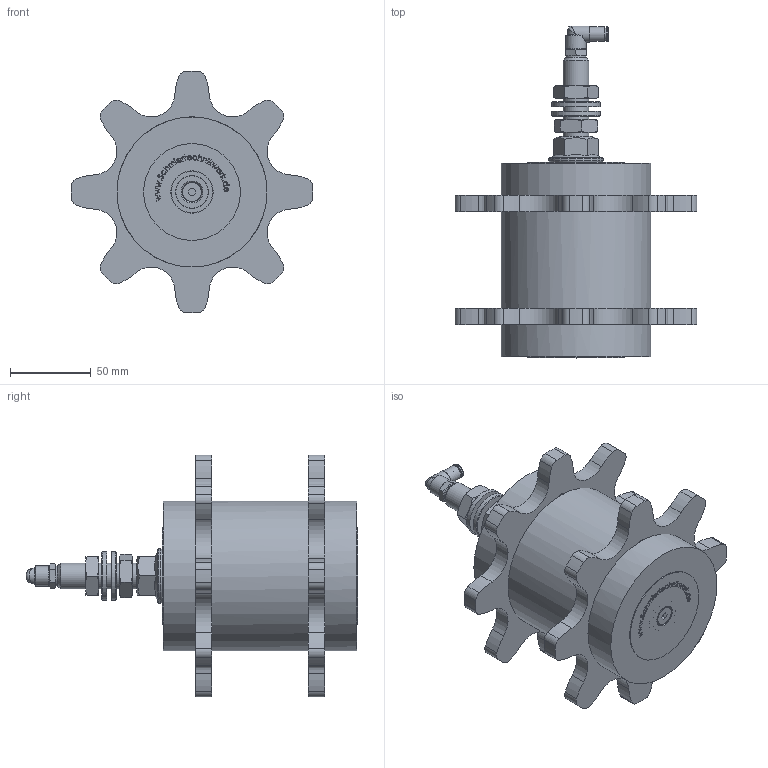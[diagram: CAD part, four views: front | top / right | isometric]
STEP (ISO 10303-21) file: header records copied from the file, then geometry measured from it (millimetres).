
FILE_DESCRIPTION (( 'STEP AP214' ), '1' );
FILE_NAME ('012_06_32B2_AZ.STEP', '2026-01-20T08:39:35', ( '' ), ( '' ), 'SwSTEP 2.0', 'SolidWorks 2022', '' );
FILE_SCHEMA (( 'AUTOMOTIVE_DESIGN' ));
Length unit declared in the file: millimetre
Products named in the file (9): 012_06_32B2_AZ; 214602-N2_GEW.-_1-8_1-8_1; 012_06_32B2_A_Kettenschmierritzel 32 B-2, Z08 - gerade; Scheibe_M16; R202201-I1-N2A_1; OR 7.2X1.9_1; Winkelsteckverschraubung_04_1_8; Mutter_M16; DR4_NEU_1
Assembly tree (10 placements, depth 3):
  012_06_32B2_AZ
    012_06_32B2_A_Kettenschmierritzel 32 B-2, Z08 - gerade
    Mutter_M16  x2
    Scheibe_M16  x2
    Winkelsteckverschraubung_04_1_8
      R202201-I1-N2A_1
      DR4_NEU_1
      214602-N2_GEW.-_1-8_1-8_1
      OR 7.2X1.9_1
Bounding box: 149.98 x 205.8 x 149.98 mm (x, y, z)
Volume: 10877 mm3; surface area: 120502.4 mm2
Topology: 8 solids, 93 shells, 464 faces, 1333 edges, 989 vertices
Faces by surface type: cylinder 228, plane 145, cone 79, bspline 8, torus 4
Full cylindrical faces by diameter (mm): 3 x1, 4 x6, 4.1 x2, 4.2 x6, 4.9 x6, 5 x26, 5.5 x1, 6 x2, 6.4 x1, 7 x12, 7.3 x1, 7.4 x1, 7.6 x1, 8.3 x1, 8.917 x1, 9 x3, 9.1 x1, 9.728 x1, 10 x1, 10.1 x2, 12.5 x1, 13 x1, 14 x3, 16 x2, 17 x2, 20 x3, 20.2 x1, 25.95 x6, 30 x2, 33.6 x1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
Entity records: 46202 total; most frequent: CARTESIAN_POINT 32299, DIRECTION 2036, ORIENTED_EDGE 1710, EDGE_CURVE 1050, VERTEX_POINT 881, AXIS2_PLACEMENT_3D 856, EDGE_LOOP 653, FACE_OUTER_BOUND 543
